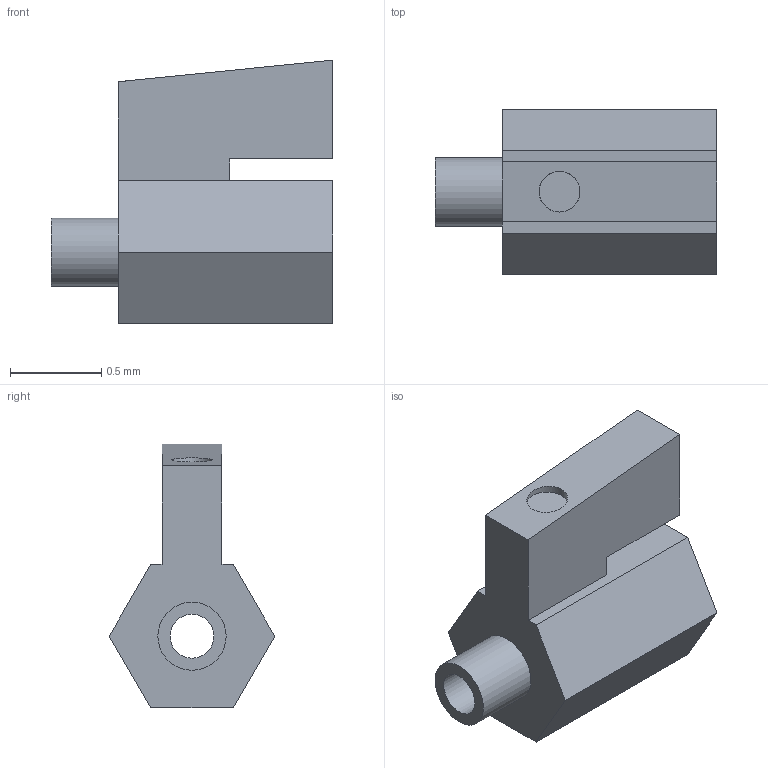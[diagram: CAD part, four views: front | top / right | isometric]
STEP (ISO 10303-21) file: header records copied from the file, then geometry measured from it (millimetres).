
FILE_DESCRIPTION(('Open CASCADE Model'),'2;1');
FILE_NAME('Open CASCADE Shape Model','2021-09-23T10:42:51',('Author'),( 'Open CASCADE'),'Open CASCADE STEP processor 7.3','Open CASCADE 7.3' ,'Unknown');
FILE_SCHEMA(('AUTOMOTIVE_DESIGN { 1 0 10303 214 1 1 1 1 }'));
Length unit declared in the file: millimetre
Products named in the file (1): Open CASCADE STEP translator 7.3 1
Bounding box: 1.54 x 0.91 x 1.44 mm (x, y, z)
Volume: 0.8 mm3; surface area: 8.1 mm2
Topology: 1 solids, 1 shells, 21 faces, 50 edges, 34 vertices
Faces by surface type: plane 17, cylinder 4
Full cylindrical faces by diameter (mm): 0.223 x1, 0.24 x1, 0.33 x1, 0.373 x1
Entity records: 1332 total; most frequent: CARTESIAN_POINT 294, DIRECTION 192, LINE 124, VECTOR 124, ORIENTED_EDGE 100, PCURVE 100, DEFINITIONAL_REPRESENTATION 100, EDGE_CURVE 50
